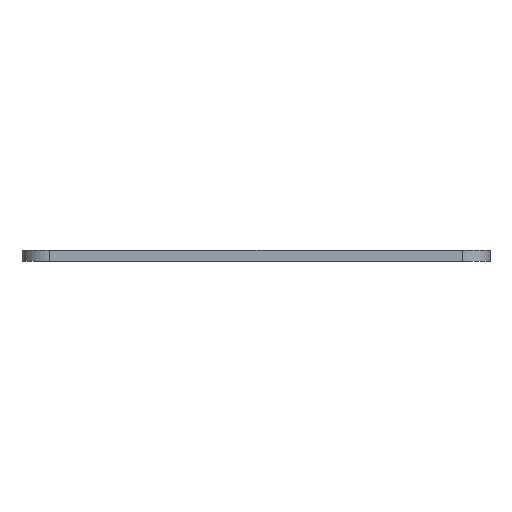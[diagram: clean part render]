
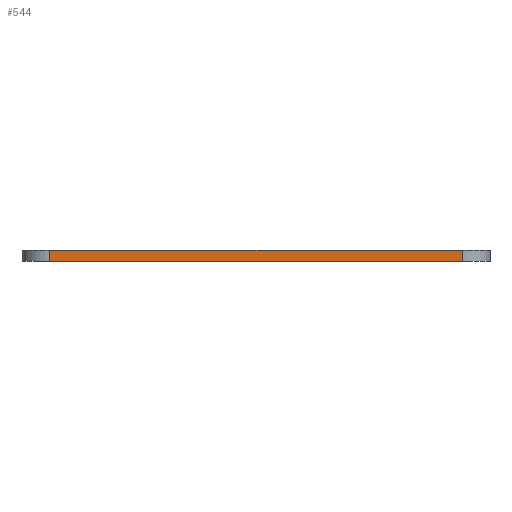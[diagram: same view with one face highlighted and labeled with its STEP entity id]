
A CAD part, left-side view. The second image highlights one B-rep face of the part: STEP entity #544.
In plain terms, the highlighted planar face has unit normal (-1, 0, 0).
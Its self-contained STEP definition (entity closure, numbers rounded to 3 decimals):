
#1 = ORIENTED_EDGE ( 'NONE', *, *, #560, .F. ) ;
#47 = DIRECTION ( 'NONE',  ( 0., -1., 0. ) ) ;
#55 = FACE_OUTER_BOUND ( 'NONE', #425, .T. ) ;
#187 = VECTOR ( 'NONE', #47, 1000. ) ;
#299 = DIRECTION ( 'NONE',  ( 1., 0., 0. ) ) ;
#306 = LINE ( 'NONE', #503, #1208 ) ;
#343 = VERTEX_POINT ( 'NONE', #628 ) ;
#379 = PLANE ( 'NONE',  #620 ) ;
#395 = DIRECTION ( 'NONE',  ( 0., 1., 0. ) ) ;
#401 = LINE ( 'NONE', #1233, #687 ) ;
#420 = DIRECTION ( 'NONE',  ( 0., -1., 0. ) ) ;
#425 = EDGE_LOOP ( 'NONE', ( #1301, #929, #1, #1317 ) ) ;
#433 = LINE ( 'NONE', #452, #1126 ) ;
#451 = EDGE_CURVE ( 'NONE', #343, #1252, #490, .T. ) ;
#452 = CARTESIAN_POINT ( 'NONE',  ( -45., -37.5, 2. ) ) ;
#458 = CARTESIAN_POINT ( 'NONE',  ( -45., 37.5, 2. ) ) ;
#462 = CARTESIAN_POINT ( 'NONE',  ( -45., -37.5, 0. ) ) ;
#490 = LINE ( 'NONE', #1199, #187 ) ;
#503 = CARTESIAN_POINT ( 'NONE',  ( -45., 37.5, 2. ) ) ;
#544 = ADVANCED_FACE ( 'NONE', ( #55 ), #379, .F. ) ;
#560 = EDGE_CURVE ( 'NONE', #892, #1187, #401, .T. ) ;
#620 = AXIS2_PLACEMENT_3D ( 'NONE', #723, #299, #395 ) ;
#628 = CARTESIAN_POINT ( 'NONE',  ( -45., 37.5, 0. ) ) ;
#657 = EDGE_CURVE ( 'NONE', #892, #343, #306, .T. ) ;
#687 = VECTOR ( 'NONE', #420, 1000. ) ;
#723 = CARTESIAN_POINT ( 'NONE',  ( -45., 37.5, 2. ) ) ;
#759 = CARTESIAN_POINT ( 'NONE',  ( -45., -37.5, 2. ) ) ;
#892 = VERTEX_POINT ( 'NONE', #458 ) ;
#917 = DIRECTION ( 'NONE',  ( 0., 0., -1. ) ) ;
#929 = ORIENTED_EDGE ( 'NONE', *, *, #1133, .F. ) ;
#1126 = VECTOR ( 'NONE', #1160, 1000. ) ;
#1133 = EDGE_CURVE ( 'NONE', #1187, #1252, #433, .T. ) ;
#1160 = DIRECTION ( 'NONE',  ( 0., 0., -1. ) ) ;
#1187 = VERTEX_POINT ( 'NONE', #759 ) ;
#1199 = CARTESIAN_POINT ( 'NONE',  ( -45., 37.5, 0. ) ) ;
#1208 = VECTOR ( 'NONE', #917, 1000. ) ;
#1233 = CARTESIAN_POINT ( 'NONE',  ( -45., 37.5, 2. ) ) ;
#1252 = VERTEX_POINT ( 'NONE', #462 ) ;
#1301 = ORIENTED_EDGE ( 'NONE', *, *, #451, .T. ) ;
#1317 = ORIENTED_EDGE ( 'NONE', *, *, #657, .T. ) ;
